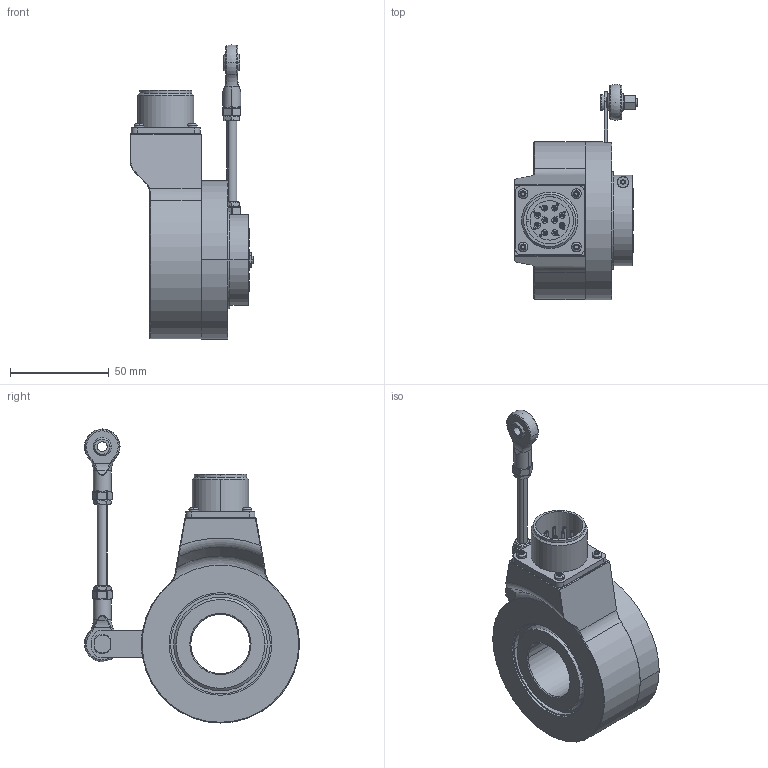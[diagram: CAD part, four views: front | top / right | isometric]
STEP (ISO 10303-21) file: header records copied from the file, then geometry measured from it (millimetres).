
FILE_DESCRIPTION (( 'STEP AP203' ), '1' );
FILE_NAME ('K80I.OXX.XXXXX.XH16830.6XRCE.step', '2025-12-09T08:21:01', ( '' ), ( '' ), 'SwSTEP 2.0', 'SolidWorks 2021', '' );
FILE_SCHEMA (( 'CONFIG_CONTROL_DESIGN' ));
Length unit declared in the file: millimetre
Products named in the file (1): K80I.OXX.XXXXX.XH16830.6XRCE
Bounding box: 62.6 x 108.97 x 149.07 mm (x, y, z)
Volume: 232852.9 mm3; surface area: 68930.1 mm2
Topology: 14 solids, 14 shells, 855 faces, 2129 edges, 1335 vertices
Faces by surface type: plane 326, cylinder 263, bspline 107, cone 91, torus 54, sphere 14
Entity records: 30796 total; most frequent: CARTESIAN_POINT 10865, ORIENTED_EDGE 4182, DIRECTION 4083, EDGE_CURVE 2091, AXIS2_PLACEMENT_3D 1563, VERTEX_POINT 1331, LINE 957, VECTOR 957
